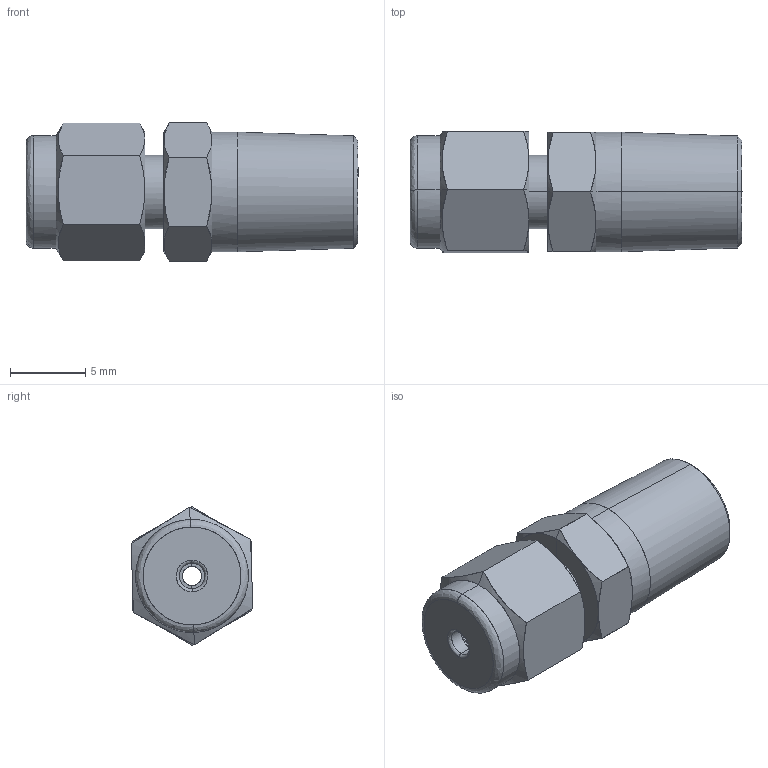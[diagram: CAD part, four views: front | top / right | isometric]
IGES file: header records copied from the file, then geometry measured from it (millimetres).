
Start section: Comment
Global section: file name: SMC1-1N.igs; native system:  By UGS Corp.; preprocessor: XPlus GENERIC/IGES 3.0; author: Author; organization: Title; date: 20100113.144358; units: millimetre
Bounding box: 22.05 x 8.09 x 9.17 mm (x, y, z)
Surface area: 1024.9 mm2 (no closed solid volume)
Topology: 0 solids, 0 shells, 95 faces, 607 edges, 604 vertices
Faces by surface type: bspline 95
